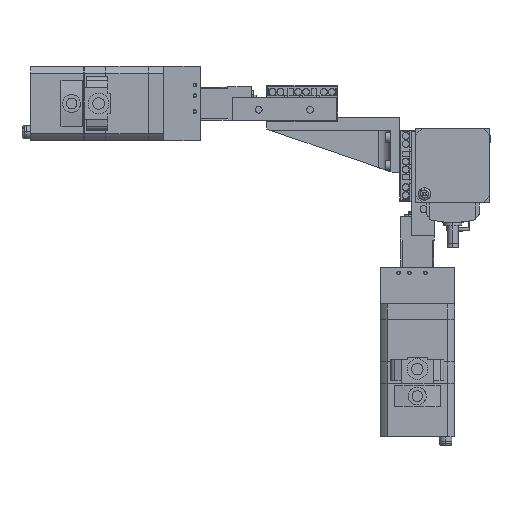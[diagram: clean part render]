
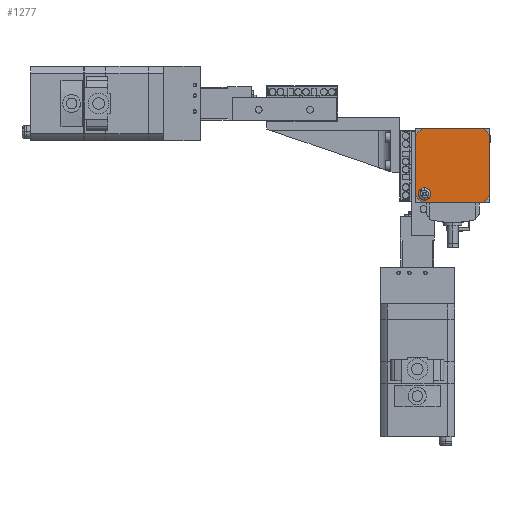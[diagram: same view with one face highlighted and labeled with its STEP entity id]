
A CAD part, left-side view. The second image highlights one B-rep face of the part: STEP entity #1277.
In plain terms, the highlighted planar face has unit normal (-1, 0, 0).
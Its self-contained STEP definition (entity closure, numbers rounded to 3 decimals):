
#1277=ADVANCED_FACE('',(#3546,#3547),#3548,.T.);
#3546=FACE_BOUND('',#7588,.T.);
#3547=FACE_OUTER_BOUND('',#7589,.T.);
#3548=PLANE('',#7590);
#7588=EDGE_LOOP('',(#13550,#13551));
#7589=EDGE_LOOP('',(#13552,#13553,#13554,#13555,#13556,#13557,#13558,#13559));
#7590=AXIS2_PLACEMENT_3D('',#13560,#13561,#13562);
#13550=ORIENTED_EDGE('',*,*,#26705,.F.);
#13551=ORIENTED_EDGE('',*,*,#26689,.F.);
#13552=ORIENTED_EDGE('',*,*,#26707,.T.);
#13553=ORIENTED_EDGE('',*,*,#26708,.T.);
#13554=ORIENTED_EDGE('',*,*,#26709,.T.);
#13555=ORIENTED_EDGE('',*,*,#26710,.T.);
#13556=ORIENTED_EDGE('',*,*,#26711,.T.);
#13557=ORIENTED_EDGE('',*,*,#26712,.T.);
#13558=ORIENTED_EDGE('',*,*,#26713,.T.);
#13559=ORIENTED_EDGE('',*,*,#26714,.T.);
#13560=CARTESIAN_POINT('',(-153.,10.,0.));
#13561=DIRECTION('',(-1.0,0.,0.));
#13562=DIRECTION('',(0.,1.0,0.));
#26689=EDGE_CURVE('',#31889,#31885,#31891,.T.);
#26705=EDGE_CURVE('',#31885,#31889,#31916,.T.);
#26707=EDGE_CURVE('',#31918,#31919,#31920,.T.);
#26708=EDGE_CURVE('',#31919,#31921,#31922,.T.);
#26709=EDGE_CURVE('',#31921,#31923,#31924,.T.);
#26710=EDGE_CURVE('',#31923,#31925,#31926,.T.);
#26711=EDGE_CURVE('',#31925,#31927,#31928,.T.);
#26712=EDGE_CURVE('',#31927,#31929,#31930,.T.);
#26713=EDGE_CURVE('',#31929,#31931,#31932,.T.);
#26714=EDGE_CURVE('',#31931,#31918,#31933,.T.);
#31885=VERTEX_POINT('',#40041);
#31889=VERTEX_POINT('',#40046);
#31891=CIRCLE('',#40049,3.5);
#31916=CIRCLE('',#40112,3.5);
#31918=VERTEX_POINT('',#40114);
#31919=VERTEX_POINT('',#40115);
#31920=LINE('',#40116,#40117);
#31921=VERTEX_POINT('',#40118);
#31922=CIRCLE('',#40119,27.);
#31923=VERTEX_POINT('',#40120);
#31924=LINE('',#40121,#40122);
#31925=VERTEX_POINT('',#40123);
#31926=CIRCLE('',#40124,27.);
#31927=VERTEX_POINT('',#40125);
#31928=LINE('',#40126,#40127);
#31929=VERTEX_POINT('',#40128);
#31930=CIRCLE('',#40129,27.);
#31931=VERTEX_POINT('',#40130);
#31932=LINE('',#40131,#40132);
#31933=CIRCLE('',#40133,27.0);
#40041=CARTESIAN_POINT('',(-153.,26.0,-12.5));
#40046=CARTESIAN_POINT('',(-153.,26.0,-19.5));
#40049=AXIS2_PLACEMENT_3D('',#50373,#50374,#50375);
#40112=AXIS2_PLACEMENT_3D('',#50400,#50401,#50402);
#40114=CARTESIAN_POINT('',(-153.,26.971,-21.));
#40115=CARTESIAN_POINT('',(-153.,-6.971,-21.));
#40116=CARTESIAN_POINT('',(-153.,26.971,-21.));
#40117=VECTOR('',#50406,1000.0);
#40118=CARTESIAN_POINT('',(-153.,-11.,-16.971));
#40119=AXIS2_PLACEMENT_3D('',#50407,#50408,#50409);
#40120=CARTESIAN_POINT('',(-153.,-11.,16.971));
#40121=CARTESIAN_POINT('',(-153.,-11.,-16.971));
#40122=VECTOR('',#50410,1000.0);
#40123=CARTESIAN_POINT('',(-153.,-6.971,21.));
#40124=AXIS2_PLACEMENT_3D('',#50411,#50412,#50413);
#40125=CARTESIAN_POINT('',(-153.,26.971,21.));
#40126=CARTESIAN_POINT('',(-153.,-6.971,21.));
#40127=VECTOR('',#50414,1000.0);
#40128=CARTESIAN_POINT('',(-153.,31.0,16.971));
#40129=AXIS2_PLACEMENT_3D('',#50415,#50416,#50417);
#40130=CARTESIAN_POINT('',(-153.,31.0,-16.971));
#40131=CARTESIAN_POINT('',(-153.,31.0,16.971));
#40132=VECTOR('',#50418,1000.0);
#40133=AXIS2_PLACEMENT_3D('',#50419,#50420,#50421);
#50373=CARTESIAN_POINT('',(-153.,26.0,-16.));
#50374=DIRECTION('',(-1.0,0.,0.));
#50375=DIRECTION('',(0.,0.,1.0));
#50400=CARTESIAN_POINT('',(-153.,26.0,-16.));
#50401=DIRECTION('',(-1.0,0.,0.));
#50402=DIRECTION('',(0.,0.,1.0));
#50406=DIRECTION('',(0.,-1.0,0.));
#50407=CARTESIAN_POINT('',(-153.,10.,0.));
#50408=DIRECTION('',(-1.0,0.,0.));
#50409=DIRECTION('',(0.,0.,1.0));
#50410=DIRECTION('',(0.,0.,1.0));
#50411=CARTESIAN_POINT('',(-153.,10.0,0.));
#50412=DIRECTION('',(-1.0,0.,0.));
#50413=DIRECTION('',(0.,0.,1.0));
#50414=DIRECTION('',(0.,1.0,0.));
#50415=CARTESIAN_POINT('',(-153.,10.,0.));
#50416=DIRECTION('',(-1.0,0.,0.));
#50417=DIRECTION('',(0.,0.,1.0));
#50418=DIRECTION('',(0.,0.,-1.0));
#50419=CARTESIAN_POINT('',(-153.,10.,0.));
#50420=DIRECTION('',(-1.0,0.,0.));
#50421=DIRECTION('',(0.,0.,1.0));
